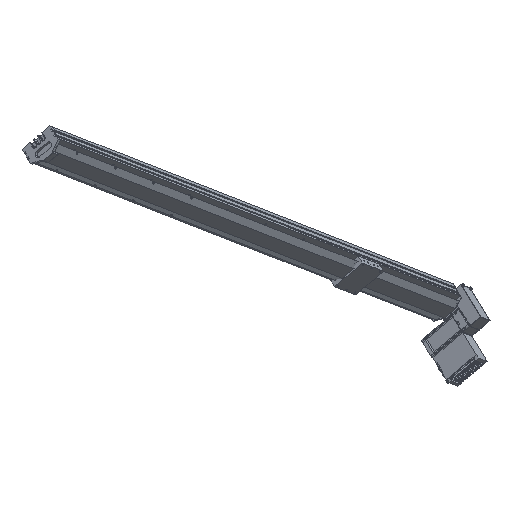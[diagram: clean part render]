
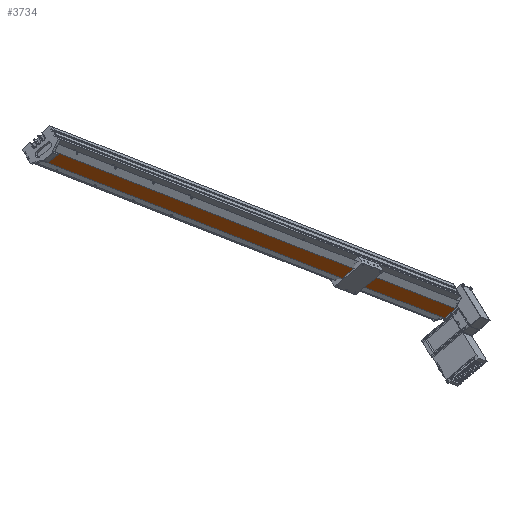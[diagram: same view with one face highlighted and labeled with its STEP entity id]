
A CAD part, top view. The second image highlights one B-rep face of the part: STEP entity #3734.
In plain terms, the highlighted planar face has unit normal (0.464, -0.763, 0.45) as drawn and (0, 1, 0) by its records, which use the part's own axes.
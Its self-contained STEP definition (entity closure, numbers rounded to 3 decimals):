
#1294 = VERTEX_POINT ( 'NONE', #17647 ) ;
#1380 = EDGE_CURVE ( 'NONE', #1954, #1294, #17926, .T. ) ;
#1954 = VERTEX_POINT ( 'NONE', #19129 ) ;
#3690 = ORIENTED_EDGE ( 'NONE', *, *, #1380, .T. ) ;
#3699 = VERTEX_POINT ( 'NONE', #21605 ) ;
#3701 = VERTEX_POINT ( 'NONE', #21601 ) ;
#3702 = ORIENTED_EDGE ( 'NONE', *, *, #3711, .F. ) ;
#3705 = EDGE_LOOP ( 'NONE', ( #3727, #3788, #3702, #3745, #3690 ) ) ;
#3711 = EDGE_CURVE ( 'NONE', #3699, #3701, #21573, .T. ) ;
#3714 = EDGE_CURVE ( 'NONE', #3701, #3755, #21567, .T. ) ;
#3716 = EDGE_CURVE ( 'NONE', #1294, #3755, #21566, .T. ) ;
#3727 = ORIENTED_EDGE ( 'NONE', *, *, #3716, .T. ) ;
#3734 = ADVANCED_FACE ( 'NONE', ( #21279 ), #22023, .F. ) ;
#3736 = EDGE_CURVE ( 'NONE', #3699, #1954, #21939, .T. ) ;
#3745 = ORIENTED_EDGE ( 'NONE', *, *, #3736, .T. ) ;
#3755 = VERTEX_POINT ( 'NONE', #21894 ) ;
#3788 = ORIENTED_EDGE ( 'NONE', *, *, #3714, .F. ) ;
#17647 = CARTESIAN_POINT ( 'NONE',  ( 20., 61.75, 0. ) ) ;
#17923 = DIRECTION ( 'NONE',  ( 0., 0., -1. ) ) ;
#17924 = VECTOR ( 'NONE', #17923, 1000. ) ;
#17925 = CARTESIAN_POINT ( 'NONE',  ( 20., 61.75, 2100. ) ) ;
#17926 = LINE ( 'NONE', #17925, #17924 ) ;
#19129 = CARTESIAN_POINT ( 'NONE',  ( 20., 61.75, 5.114 ) ) ;
#21279 = FACE_OUTER_BOUND ( 'NONE', #3705, .T. ) ;
#21510 = DIRECTION ( 'NONE',  ( -1., 0., 0. ) ) ;
#21511 = VECTOR ( 'NONE', #21510, 1000. ) ;
#21513 = CARTESIAN_POINT ( 'NONE',  ( 20., 61.75, 0. ) ) ;
#21563 = DIRECTION ( 'NONE',  ( 0., 0., -1. ) ) ;
#21564 = VECTOR ( 'NONE', #21563, 1000. ) ;
#21565 = CARTESIAN_POINT ( 'NONE',  ( -20., 61.75, 2100. ) ) ;
#21566 = LINE ( 'NONE', #21513, #21511 ) ;
#21567 = LINE ( 'NONE', #21565, #21564 ) ;
#21568 = DIRECTION ( 'NONE',  ( -1., 0., 0. ) ) ;
#21571 = VECTOR ( 'NONE', #21568, 1000. ) ;
#21572 = CARTESIAN_POINT ( 'NONE',  ( 20., 61.75, 2100. ) ) ;
#21573 = LINE ( 'NONE', #21572, #21571 ) ;
#21601 = CARTESIAN_POINT ( 'NONE',  ( -20., 61.75, 2100. ) ) ;
#21605 = CARTESIAN_POINT ( 'NONE',  ( 20., 61.75, 2100. ) ) ;
#21871 = AXIS2_PLACEMENT_3D ( 'NONE', #21943, #21916, #21934 ) ;
#21894 = CARTESIAN_POINT ( 'NONE',  ( -20., 61.75, 0. ) ) ;
#21916 = DIRECTION ( 'NONE',  ( 0., -1., 0. ) ) ;
#21930 = DIRECTION ( 'NONE',  ( 0., 0., -1. ) ) ;
#21931 = VECTOR ( 'NONE', #21930, 1000. ) ;
#21934 = DIRECTION ( 'NONE',  ( 0., 0., -1. ) ) ;
#21938 = CARTESIAN_POINT ( 'NONE',  ( 20., 61.75, 2100. ) ) ;
#21939 = LINE ( 'NONE', #21938, #21931 ) ;
#21943 = CARTESIAN_POINT ( 'NONE',  ( 20., 61.75, 2100. ) ) ;
#22023 = PLANE ( 'NONE',  #21871 ) ;
